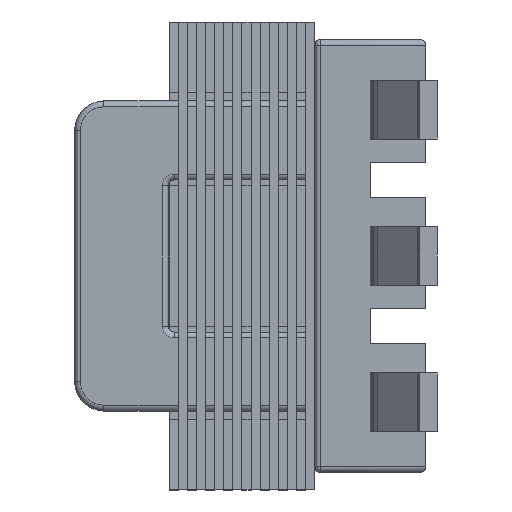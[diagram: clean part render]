
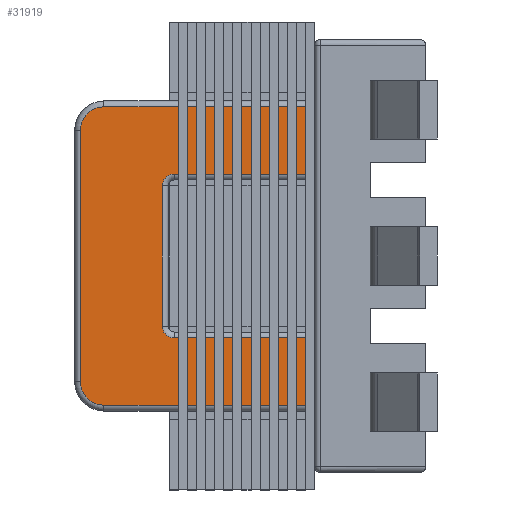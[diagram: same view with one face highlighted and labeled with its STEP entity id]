
A CAD part, left-side view. The second image highlights one B-rep face of the part: STEP entity #31919.
In plain terms, the highlighted planar face has unit normal (-1, 0, 0).
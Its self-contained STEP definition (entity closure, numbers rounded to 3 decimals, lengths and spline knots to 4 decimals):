
#136 = EDGE_CURVE ( 'NONE', #6403, #41097, #54261, .T. ) ;
#231 = CARTESIAN_POINT ( 'NONE',  ( -2.7, 1.95, -2.15 ) ) ;
#1545 = DIRECTION ( 'NONE',  ( 0., 1., 0. ) ) ;
#2604 = CARTESIAN_POINT ( 'NONE',  ( -2.7, 1.55, -1.4 ) ) ;
#2986 = CARTESIAN_POINT ( 'NONE',  ( -2.7, 0.55, 2.15 ) ) ;
#3123 = VERTEX_POINT ( 'NONE', #53102 ) ;
#4201 = DIRECTION ( 'NONE',  ( 0., 0., -1. ) ) ;
#4394 = ORIENTED_EDGE ( 'NONE', *, *, #136, .T. ) ;
#4407 = LINE ( 'NONE', #21953, #34602 ) ;
#4458 = ORIENTED_EDGE ( 'NONE', *, *, #29252, .F. ) ;
#5183 = CARTESIAN_POINT ( 'NONE',  ( -2.7, 0.35, 1.4 ) ) ;
#5672 = CARTESIAN_POINT ( 'NONE',  ( -2.7, 1.55, 2.55 ) ) ;
#6185 = EDGE_CURVE ( 'NONE', #10632, #49052, #38910, .T. ) ;
#6403 = VERTEX_POINT ( 'NONE', #33101 ) ;
#6457 = VERTEX_POINT ( 'NONE', #33031 ) ;
#7280 = DIRECTION ( 'NONE',  ( 1., 0., 0. ) ) ;
#8022 = CARTESIAN_POINT ( 'NONE',  ( -2.7, 0.35, -1.2 ) ) ;
#8293 = EDGE_LOOP ( 'NONE', ( #4458, #53770, #42666, #24304, #20865, #14437, #31845, #9057, #33272, #29540, #15402, #4394 ) ) ;
#8360 = VECTOR ( 'NONE', #38952, 1000. ) ;
#8761 = VERTEX_POINT ( 'NONE', #44691 ) ;
#9057 = ORIENTED_EDGE ( 'NONE', *, *, #47957, .T. ) ;
#9105 = VECTOR ( 'NONE', #52249, 1000. ) ;
#10534 = EDGE_CURVE ( 'NONE', #21418, #13393, #21411, .T. ) ;
#10632 = VERTEX_POINT ( 'NONE', #13702 ) ;
#11121 = DIRECTION ( 'NONE',  ( 0., 0., -1. ) ) ;
#11512 = AXIS2_PLACEMENT_3D ( 'NONE', #29605, #50421, #41950 ) ;
#11672 = FACE_OUTER_BOUND ( 'NONE', #8293, .T. ) ;
#11832 = CARTESIAN_POINT ( 'NONE',  ( -2.7, 1.55, 2.15 ) ) ;
#11953 = VERTEX_POINT ( 'NONE', #46398 ) ;
#12230 = EDGE_CURVE ( 'NONE', #49052, #6403, #39928, .T. ) ;
#13393 = VERTEX_POINT ( 'NONE', #24782 ) ;
#13702 = CARTESIAN_POINT ( 'NONE',  ( -2.7, 1.95, 2.15 ) ) ;
#14437 = ORIENTED_EDGE ( 'NONE', *, *, #10534, .T. ) ;
#15075 = CARTESIAN_POINT ( 'NONE',  ( -2.7, 0.35, -1.4 ) ) ;
#15252 = CARTESIAN_POINT ( 'NONE',  ( -2.7, 1.55, 2.15 ) ) ;
#15402 = ORIENTED_EDGE ( 'NONE', *, *, #12230, .T. ) ;
#19436 = DIRECTION ( 'NONE',  ( 0., 0., 1. ) ) ;
#19980 = LINE ( 'NONE', #2986, #20468 ) ;
#20317 = VECTOR ( 'NONE', #1545, 1000. ) ;
#20468 = VECTOR ( 'NONE', #19436, 1000. ) ;
#20865 = ORIENTED_EDGE ( 'NONE', *, *, #48414, .F. ) ;
#21411 = LINE ( 'NONE', #30190, #8360 ) ;
#21418 = VERTEX_POINT ( 'NONE', #5183 ) ;
#21953 = CARTESIAN_POINT ( 'NONE',  ( -2.7, -2.05, -2.65 ) ) ;
#22957 = VECTOR ( 'NONE', #30702, 1000. ) ;
#23922 = CARTESIAN_POINT ( 'NONE',  ( -2.7, 1.95, -2.15 ) ) ;
#24195 = DIRECTION ( 'NONE',  ( -1., 0., 0. ) ) ;
#24304 = ORIENTED_EDGE ( 'NONE', *, *, #30000, .T. ) ;
#24608 = EDGE_CURVE ( 'NONE', #30805, #45491, #40195, .T. ) ;
#24782 = CARTESIAN_POINT ( 'NONE',  ( -2.7, -2.05, 1.4 ) ) ;
#26199 = CIRCLE ( 'NONE', #41996, 0.4 ) ;
#29252 = EDGE_CURVE ( 'NONE', #30805, #41097, #4407, .T. ) ;
#29540 = ORIENTED_EDGE ( 'NONE', *, *, #6185, .T. ) ;
#29605 = CARTESIAN_POINT ( 'NONE',  ( -2.7, 0.35, 1.2 ) ) ;
#30000 = EDGE_CURVE ( 'NONE', #6457, #3123, #19980, .T. ) ;
#30190 = CARTESIAN_POINT ( 'NONE',  ( -2.7, 1.55, 1.4 ) ) ;
#30296 = VECTOR ( 'NONE', #38378, 1000. ) ;
#30702 = DIRECTION ( 'NONE',  ( 0., 0., -1. ) ) ;
#30805 = VERTEX_POINT ( 'NONE', #45292 ) ;
#31845 = ORIENTED_EDGE ( 'NONE', *, *, #50476, .F. ) ;
#31919 = ADVANCED_FACE ( 'NONE', ( #11672 ), #36098, .F. ) ;
#32928 = AXIS2_PLACEMENT_3D ( 'NONE', #39797, #39530, #43108 ) ;
#33031 = CARTESIAN_POINT ( 'NONE',  ( -2.7, 0.55, -1.2 ) ) ;
#33101 = CARTESIAN_POINT ( 'NONE',  ( -2.7, 1.55, -2.55 ) ) ;
#33162 = DIRECTION ( 'NONE',  ( 0., -1., 0. ) ) ;
#33272 = ORIENTED_EDGE ( 'NONE', *, *, #38671, .T. ) ;
#33432 = CARTESIAN_POINT ( 'NONE',  ( -2.7, -2.05, -2.55 ) ) ;
#33779 = EDGE_CURVE ( 'NONE', #6457, #45491, #40201, .T. ) ;
#34602 = VECTOR ( 'NONE', #46355, 1000. ) ;
#36098 = PLANE ( 'NONE',  #45055 ) ;
#37825 = CIRCLE ( 'NONE', #11512, 0.2 ) ;
#38378 = DIRECTION ( 'NONE',  ( 0., 0., -1. ) ) ;
#38671 = EDGE_CURVE ( 'NONE', #8761, #10632, #26199, .T. ) ;
#38910 = LINE ( 'NONE', #231, #30296 ) ;
#38952 = DIRECTION ( 'NONE',  ( 0., -1., 0. ) ) ;
#39530 = DIRECTION ( 'NONE',  ( -1., 0., 0. ) ) ;
#39532 = VECTOR ( 'NONE', #33162, 1000. ) ;
#39797 = CARTESIAN_POINT ( 'NONE',  ( -2.7, 1.55, -2.15 ) ) ;
#39928 = CIRCLE ( 'NONE', #32928, 0.4 ) ;
#40195 = LINE ( 'NONE', #2604, #9105 ) ;
#40201 = CIRCLE ( 'NONE', #47195, 0.2 ) ;
#41097 = VERTEX_POINT ( 'NONE', #44466 ) ;
#41950 = DIRECTION ( 'NONE',  ( 0., 0., -1. ) ) ;
#41996 = AXIS2_PLACEMENT_3D ( 'NONE', #11832, #24195, #42025 ) ;
#42025 = DIRECTION ( 'NONE',  ( 0., 0., -1. ) ) ;
#42666 = ORIENTED_EDGE ( 'NONE', *, *, #33779, .F. ) ;
#43108 = DIRECTION ( 'NONE',  ( 0., 0., -1. ) ) ;
#43261 = LINE ( 'NONE', #5672, #20317 ) ;
#44296 = CARTESIAN_POINT ( 'NONE',  ( -2.7, -2.05, -2.65 ) ) ;
#44466 = CARTESIAN_POINT ( 'NONE',  ( -2.7, -2.05, -2.55 ) ) ;
#44691 = CARTESIAN_POINT ( 'NONE',  ( -2.7, 1.55, 2.55 ) ) ;
#45055 = AXIS2_PLACEMENT_3D ( 'NONE', #15252, #7280, #11121 ) ;
#45292 = CARTESIAN_POINT ( 'NONE',  ( -2.7, -2.05, -1.4 ) ) ;
#45491 = VERTEX_POINT ( 'NONE', #15075 ) ;
#46151 = DIRECTION ( 'NONE',  ( -1., 0., 0. ) ) ;
#46355 = DIRECTION ( 'NONE',  ( 0., 0., -1. ) ) ;
#46398 = CARTESIAN_POINT ( 'NONE',  ( -2.7, -2.05, 2.55 ) ) ;
#47195 = AXIS2_PLACEMENT_3D ( 'NONE', #8022, #46151, #4201 ) ;
#47957 = EDGE_CURVE ( 'NONE', #11953, #8761, #43261, .T. ) ;
#48414 = EDGE_CURVE ( 'NONE', #21418, #3123, #37825, .T. ) ;
#48665 = LINE ( 'NONE', #44296, #22957 ) ;
#49052 = VERTEX_POINT ( 'NONE', #23922 ) ;
#50421 = DIRECTION ( 'NONE',  ( -1., 0., 0. ) ) ;
#50476 = EDGE_CURVE ( 'NONE', #11953, #13393, #48665, .T. ) ;
#52249 = DIRECTION ( 'NONE',  ( 0., 1., 0. ) ) ;
#53102 = CARTESIAN_POINT ( 'NONE',  ( -2.7, 0.55, 1.2 ) ) ;
#53770 = ORIENTED_EDGE ( 'NONE', *, *, #24608, .T. ) ;
#54261 = LINE ( 'NONE', #33432, #39532 ) ;
